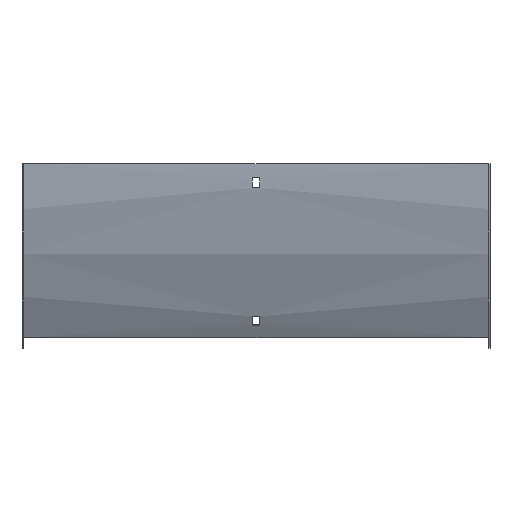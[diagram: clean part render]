
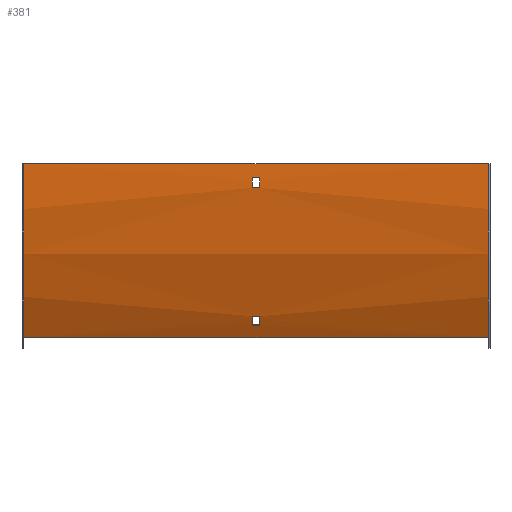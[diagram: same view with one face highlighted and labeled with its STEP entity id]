
A CAD part, front view. The second image highlights one B-rep face of the part: STEP entity #381.
In plain terms, the highlighted cylindrical face has radius 300 mm (diameter 600 mm), a partial arc.
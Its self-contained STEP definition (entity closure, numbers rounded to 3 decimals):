
#10 = FACE_BOUND ( 'NONE', #389, .T. ) ;
#11 = CARTESIAN_POINT ( 'NONE',  ( 201.5, -0.764, -21. ) ) ;
#12 = DIRECTION ( 'NONE',  ( 1., 0., 0. ) ) ;
#21 = VERTEX_POINT ( 'NONE', #509 ) ;
#25 = CARTESIAN_POINT ( 'NONE',  ( 200., 298.5, 0. ) ) ;
#28 = CARTESIAN_POINT ( 'NONE',  ( 200., 38.692, -150. ) ) ;
#34 = CARTESIAN_POINT ( 'NONE',  ( 200., -1.5, 0. ) ) ;
#38 = VERTEX_POINT ( 'NONE', #520 ) ;
#48 = EDGE_CURVE ( 'NONE', #606, #374, #419, .T. ) ;
#49 = CIRCLE ( 'NONE', #162, 300. ) ;
#57 = DIRECTION ( 'NONE',  ( 0., 0., 1. ) ) ;
#68 = ORIENTED_EDGE ( 'NONE', *, *, #368, .F. ) ;
#79 = CARTESIAN_POINT ( 'NONE',  ( -3.25, -0.764, -21. ) ) ;
#83 = ORIENTED_EDGE ( 'NONE', *, *, #473, .T. ) ;
#85 = VECTOR ( 'NONE', #196, 1000. ) ;
#87 = VECTOR ( 'NONE', #433, 1000. ) ;
#90 = DIRECTION ( 'NONE',  ( -1., 0., 0. ) ) ;
#103 = DIRECTION ( 'NONE',  ( -1., 0., 0. ) ) ;
#119 = CARTESIAN_POINT ( 'NONE',  ( 201.5, 32.9, -139.488 ) ) ;
#140 = CARTESIAN_POINT ( 'NONE',  ( -3.25, 298.5, 0. ) ) ;
#141 = CARTESIAN_POINT ( 'NONE',  ( 3.25, 32.9, -139.488 ) ) ;
#151 = CARTESIAN_POINT ( 'NONE',  ( 3.25, 298.5, 0. ) ) ;
#156 = EDGE_CURVE ( 'NONE', #21, #606, #204, .T. ) ;
#162 = AXIS2_PLACEMENT_3D ( 'NONE', #25, #178, #308 ) ;
#178 = DIRECTION ( 'NONE',  ( -1., 0., 0. ) ) ;
#188 = CARTESIAN_POINT ( 'NONE',  ( -200., 38.692, -150. ) ) ;
#191 = DIRECTION ( 'NONE',  ( -1., 0., 0. ) ) ;
#192 = VECTOR ( 'NONE', #12, 1000. ) ;
#194 = CYLINDRICAL_SURFACE ( 'NONE', #314, 300. ) ;
#196 = DIRECTION ( 'NONE',  ( 1., 0., 0. ) ) ;
#199 = EDGE_CURVE ( 'NONE', #532, #428, #313, .T. ) ;
#201 = CARTESIAN_POINT ( 'NONE',  ( -200., -1.5, 0. ) ) ;
#204 = CIRCLE ( 'NONE', #345, 300. ) ;
#207 = ORIENTED_EDGE ( 'NONE', *, *, #423, .F. ) ;
#210 = ORIENTED_EDGE ( 'NONE', *, *, #48, .F. ) ;
#213 = DIRECTION ( 'NONE',  ( -1., 0., 0. ) ) ;
#214 = ORIENTED_EDGE ( 'NONE', *, *, #493, .F. ) ;
#216 = VERTEX_POINT ( 'NONE', #390 ) ;
#218 = ORIENTED_EDGE ( 'NONE', *, *, #219, .F. ) ;
#219 = EDGE_CURVE ( 'NONE', #38, #290, #349, .T. ) ;
#220 = CARTESIAN_POINT ( 'NONE',  ( 201.5, -1.26, -12. ) ) ;
#226 = CARTESIAN_POINT ( 'NONE',  ( 3.25, 298.5, 0. ) ) ;
#236 = CARTESIAN_POINT ( 'NONE',  ( 3.25, -0.764, -21. ) ) ;
#247 = CARTESIAN_POINT ( 'NONE',  ( 3.25, -1.26, -12. ) ) ;
#272 = DIRECTION ( 'NONE',  ( 0., 0., 1. ) ) ;
#282 = CARTESIAN_POINT ( 'NONE',  ( -3.25, 28.83, -131.446 ) ) ;
#290 = VERTEX_POINT ( 'NONE', #188 ) ;
#293 = AXIS2_PLACEMENT_3D ( 'NONE', #347, #213, #541 ) ;
#294 = ORIENTED_EDGE ( 'NONE', *, *, #526, .T. ) ;
#296 = ORIENTED_EDGE ( 'NONE', *, *, #402, .T. ) ;
#308 = DIRECTION ( 'NONE',  ( 0., 0., 1. ) ) ;
#313 = LINE ( 'NONE', #34, #441 ) ;
#314 = AXIS2_PLACEMENT_3D ( 'NONE', #377, #103, #57 ) ;
#322 = CARTESIAN_POINT ( 'NONE',  ( 201.5, 28.83, -131.446 ) ) ;
#336 = EDGE_CURVE ( 'NONE', #341, #411, #472, .T. ) ;
#341 = VERTEX_POINT ( 'NONE', #282 ) ;
#345 = AXIS2_PLACEMENT_3D ( 'NONE', #140, #369, #272 ) ;
#347 = CARTESIAN_POINT ( 'NONE',  ( -200., 298.5, 0. ) ) ;
#349 = LINE ( 'NONE', #28, #407 ) ;
#354 = AXIS2_PLACEMENT_3D ( 'NONE', #226, #397, #455 ) ;
#367 = ORIENTED_EDGE ( 'NONE', *, *, #336, .T. ) ;
#368 = EDGE_CURVE ( 'NONE', #374, #438, #579, .T. ) ;
#369 = DIRECTION ( 'NONE',  ( 1., 0., 0. ) ) ;
#374 = VERTEX_POINT ( 'NONE', #236 ) ;
#375 = DIRECTION ( 'NONE',  ( 0., 0., -1. ) ) ;
#376 = AXIS2_PLACEMENT_3D ( 'NONE', #151, #191, #375 ) ;
#377 = CARTESIAN_POINT ( 'NONE',  ( 201.5, 298.5, 0. ) ) ;
#380 = CIRCLE ( 'NONE', #354, 300. ) ;
#381 = ADVANCED_FACE ( 'NONE', ( #413, #518, #10 ), #194, .T. ) ;
#388 = DIRECTION ( 'NONE',  ( -1., 0., 0. ) ) ;
#389 = EDGE_LOOP ( 'NONE', ( #477, #296, #367, #294 ) ) ;
#390 = CARTESIAN_POINT ( 'NONE',  ( -3.25, 32.9, -139.488 ) ) ;
#397 = DIRECTION ( 'NONE',  ( 1., 0., 0. ) ) ;
#402 = EDGE_CURVE ( 'NONE', #216, #341, #406, .T. ) ;
#406 = CIRCLE ( 'NONE', #568, 300. ) ;
#407 = VECTOR ( 'NONE', #543, 1000. ) ;
#411 = VERTEX_POINT ( 'NONE', #533 ) ;
#413 = FACE_BOUND ( 'NONE', #545, .T. ) ;
#419 = LINE ( 'NONE', #11, #85 ) ;
#423 = EDGE_CURVE ( 'NONE', #290, #428, #436, .T. ) ;
#428 = VERTEX_POINT ( 'NONE', #201 ) ;
#433 = DIRECTION ( 'NONE',  ( -1., 0., 0. ) ) ;
#436 = CIRCLE ( 'NONE', #293, 300. ) ;
#438 = VERTEX_POINT ( 'NONE', #247 ) ;
#441 = VECTOR ( 'NONE', #90, 1000. ) ;
#454 = LINE ( 'NONE', #220, #501 ) ;
#455 = DIRECTION ( 'NONE',  ( 0., 0., 1. ) ) ;
#461 = ORIENTED_EDGE ( 'NONE', *, *, #199, .T. ) ;
#468 = DIRECTION ( 'NONE',  ( -1., 0., 0. ) ) ;
#471 = EDGE_CURVE ( 'NONE', #602, #216, #537, .T. ) ;
#472 = LINE ( 'NONE', #322, #192 ) ;
#473 = EDGE_CURVE ( 'NONE', #38, #532, #49, .T. ) ;
#477 = ORIENTED_EDGE ( 'NONE', *, *, #471, .T. ) ;
#487 = CARTESIAN_POINT ( 'NONE',  ( -3.25, 298.5, 0. ) ) ;
#491 = DIRECTION ( 'NONE',  ( 0., 0., -1. ) ) ;
#493 = EDGE_CURVE ( 'NONE', #438, #21, #454, .T. ) ;
#495 = EDGE_LOOP ( 'NONE', ( #207, #218, #83, #461 ) ) ;
#501 = VECTOR ( 'NONE', #468, 1000. ) ;
#509 = CARTESIAN_POINT ( 'NONE',  ( -3.25, -1.26, -12. ) ) ;
#518 = FACE_OUTER_BOUND ( 'NONE', #495, .T. ) ;
#520 = CARTESIAN_POINT ( 'NONE',  ( 200., 38.692, -150. ) ) ;
#526 = EDGE_CURVE ( 'NONE', #411, #602, #380, .T. ) ;
#532 = VERTEX_POINT ( 'NONE', #603 ) ;
#533 = CARTESIAN_POINT ( 'NONE',  ( 3.25, 28.83, -131.446 ) ) ;
#537 = LINE ( 'NONE', #119, #87 ) ;
#541 = DIRECTION ( 'NONE',  ( 0., 0., 1. ) ) ;
#543 = DIRECTION ( 'NONE',  ( -1., 0., 0. ) ) ;
#545 = EDGE_LOOP ( 'NONE', ( #558, #214, #68, #210 ) ) ;
#558 = ORIENTED_EDGE ( 'NONE', *, *, #156, .F. ) ;
#568 = AXIS2_PLACEMENT_3D ( 'NONE', #487, #388, #491 ) ;
#579 = CIRCLE ( 'NONE', #376, 300. ) ;
#602 = VERTEX_POINT ( 'NONE', #141 ) ;
#603 = CARTESIAN_POINT ( 'NONE',  ( 200., -1.5, 0. ) ) ;
#606 = VERTEX_POINT ( 'NONE', #79 ) ;
